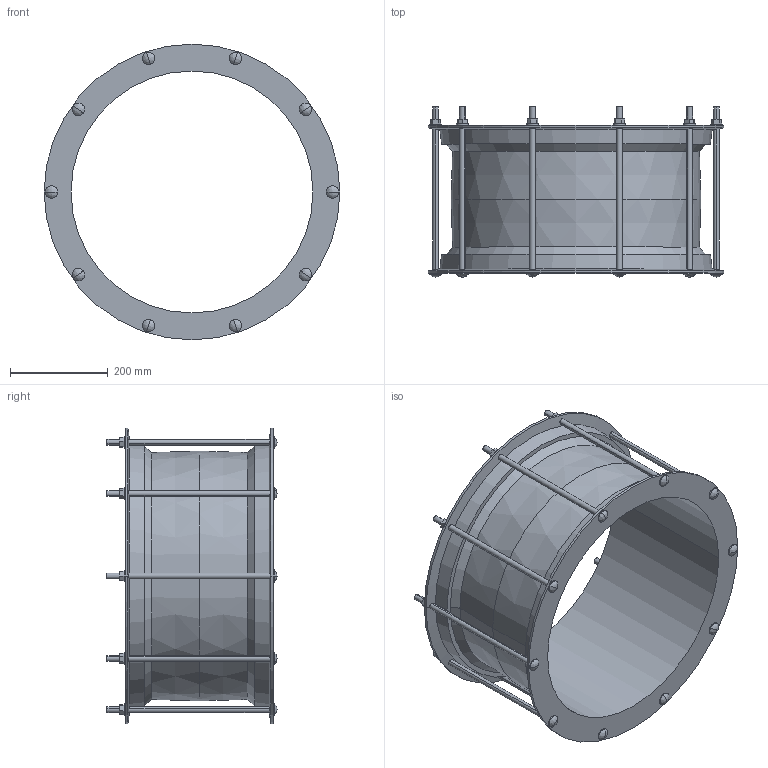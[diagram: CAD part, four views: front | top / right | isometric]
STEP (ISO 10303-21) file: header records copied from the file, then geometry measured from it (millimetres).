
FILE_DESCRIPTION((''),'2;1');
FILE_NAME('MAXIFIT_476_493','2018-12-18T',('mfairey'),('Glynwed Pipe Systems'),'CREO PARAMETRIC BY PTC INC, 2016130','CREO PARAMETRIC BY PTC INC, 2016130','');
FILE_SCHEMA(('CONFIG_CONTROL_DESIGN'));
Length unit declared in the file: millimetre
Products named in the file (1): MAXIFIT_476_493
Bounding box: 605 x 348 x 605 mm (x, y, z)
Volume: 7304611.1 mm3; surface area: 1408782.8 mm2
Topology: 1 solids, 1 shells, 216 faces, 524 edges, 328 vertices
Faces by surface type: plane 94, cylinder 86, bspline 20, cone 16
Entity records: 7706 total; most frequent: CARTESIAN_POINT 2682, DIRECTION 1018, ORIENTED_EDGE 1008, EDGE_CURVE 504, AXIS2_PLACEMENT_3D 366, VERTEX_POINT 328, VECTOR 286, LINE 286
